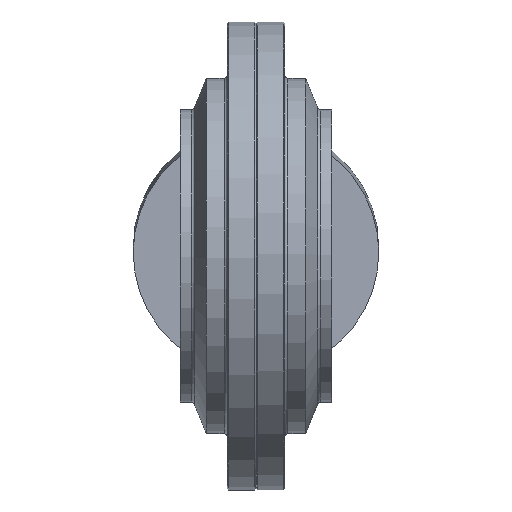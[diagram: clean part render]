
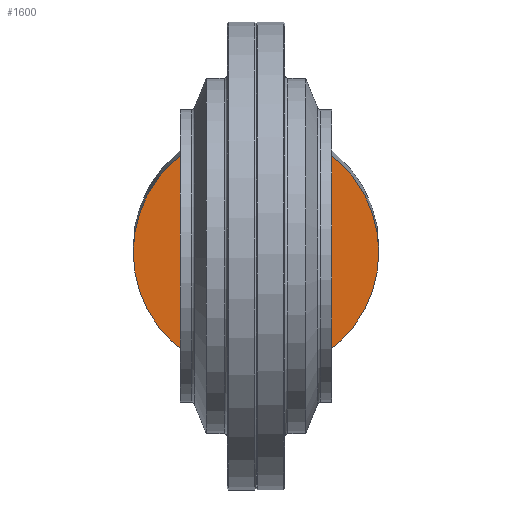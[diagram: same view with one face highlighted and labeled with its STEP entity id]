
A CAD part, front view. The second image highlights one B-rep face of the part: STEP entity #1600.
In plain terms, the highlighted planar face has unit normal (0, -1, -0.01) as drawn and (0, 0, 1) by its records, which use the part's own axes.
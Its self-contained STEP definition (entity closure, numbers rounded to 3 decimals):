
#670=CARTESIAN_POINT('',(-28.306,-212.914,
-44.596));
#680=DIRECTION('',(0.,0.,1.));
#690=DIRECTION('',(1.,0.,0.));
#700=AXIS2_PLACEMENT_3D('',#670,#680,#690);
#710=PLANE('',#700);
#720=CARTESIAN_POINT('',(-28.306,-236.914,
-44.596));
#730=DIRECTION('',(1.,0.,0.));
#740=VECTOR('',#730,1.);
#750=LINE('',#720,#740);
#760=CARTESIAN_POINT('',(-63.381,-236.914,
-44.596));
#770=VERTEX_POINT('',#760);
#780=CARTESIAN_POINT('',(-60.306,-236.914,
-44.596));
#790=VERTEX_POINT('',#780);
#800=EDGE_CURVE('',#770,#790,#750,.T.);
#810=ORIENTED_EDGE('',*,*,#800,.F.);
#820=CARTESIAN_POINT('',(-28.306,-212.914,
-44.596));
#830=DIRECTION('',(0.,0.,1.));
#840=DIRECTION('',(-1.,0.,0.));
#850=AXIS2_PLACEMENT_3D('',#820,#830,#840);
#860=CIRCLE('',#850,40.);
#870=CARTESIAN_POINT('',(-68.306,-212.914,
-44.596));
#880=VERTEX_POINT('',#870);
#890=EDGE_CURVE('',#880,#790,#860,.T.);
#900=ORIENTED_EDGE('',*,*,#890,.T.);
#910=CARTESIAN_POINT('',(-60.306,-188.914,
-44.596));
#920=VERTEX_POINT('',#910);
#930=EDGE_CURVE('',#920,#880,#860,.T.);
#940=ORIENTED_EDGE('',*,*,#930,.T.);
#950=CARTESIAN_POINT('',(-28.306,-188.914,
-44.596));
#960=DIRECTION('',(-1.,0.,0.));
#970=VECTOR('',#960,1.);
#980=LINE('',#950,#970);
#990=CARTESIAN_POINT('',(-63.381,-188.914,
-44.596));
#1000=VERTEX_POINT('',#990);
#1010=EDGE_CURVE('',#920,#1000,#980,.T.);
#1020=ORIENTED_EDGE('',*,*,#1010,.F.);
#1030=CARTESIAN_POINT('',(-28.306,-212.914,
-44.596));
#1040=DIRECTION('',(0.,0.,1.));
#1050=DIRECTION('',(1.,0.,0.));
#1060=AXIS2_PLACEMENT_3D('',#1030,#1040,#1050);
#1070=CIRCLE('',#1060,42.5);
#1080=CARTESIAN_POINT('',(6.769,-188.914,
-44.596));
#1090=VERTEX_POINT('',#1080);
#1100=EDGE_CURVE('',#1090,#1000,#1070,.T.);
#1110=ORIENTED_EDGE('',*,*,#1100,.T.);
#1120=CARTESIAN_POINT('',(-28.306,-188.914,
-44.596));
#1130=DIRECTION('',(-1.,0.,0.));
#1140=VECTOR('',#1130,1.);
#1150=LINE('',#1120,#1140);
#1160=CARTESIAN_POINT('',(3.694,-188.914,
-44.596));
#1170=VERTEX_POINT('',#1160);
#1180=EDGE_CURVE('',#1090,#1170,#1150,.T.);
#1190=ORIENTED_EDGE('',*,*,#1180,.F.);
#1200=CARTESIAN_POINT('',(-28.306,-212.914,
-44.596));
#1210=DIRECTION('',(0.,0.,1.));
#1220=DIRECTION('',(1.,0.,0.));
#1230=AXIS2_PLACEMENT_3D('',#1200,#1210,#1220);
#1240=CIRCLE('',#1230,40.);
#1250=CARTESIAN_POINT('',(11.694,-212.914,
-44.596));
#1260=VERTEX_POINT('',#1250);
#1270=EDGE_CURVE('',#1260,#1170,#1240,.T.);
#1280=ORIENTED_EDGE('',*,*,#1270,.T.);
#1290=CARTESIAN_POINT('',(3.694,-236.914,
-44.596));
#1300=VERTEX_POINT('',#1290);
#1310=EDGE_CURVE('',#1300,#1260,#1240,.T.);
#1320=ORIENTED_EDGE('',*,*,#1310,.T.);
#1330=CARTESIAN_POINT('',(-28.306,-236.914,
-44.596));
#1340=DIRECTION('',(1.,0.,0.));
#1350=VECTOR('',#1340,1.);
#1360=LINE('',#1330,#1350);
#1370=CARTESIAN_POINT('',(6.769,-236.914,
-44.596));
#1380=VERTEX_POINT('',#1370);
#1390=EDGE_CURVE('',#1300,#1380,#1360,.T.);
#1400=ORIENTED_EDGE('',*,*,#1390,.F.);
#1410=EDGE_CURVE('',#770,#1380,#1070,.T.);
#1420=ORIENTED_EDGE('',*,*,#1410,.T.);
#1430=EDGE_LOOP('',(#1420,#1400,#1320,#1280,#1190,#1110,#1020,#940,#900,
#810));
#1440=FACE_OUTER_BOUND('',#1430,.T.);
#1450=CARTESIAN_POINT('',(-28.306,-212.914,
-44.596));
#1460=DIRECTION('',(0.,0.,1.));
#1470=DIRECTION('',(0.,-1.,0.));
#1480=AXIS2_PLACEMENT_3D('',#1450,#1460,#1470);
#1490=CIRCLE('',#1480,10.);
#1500=CARTESIAN_POINT('',(-28.306,-222.914,
-44.596));
#1510=VERTEX_POINT('',#1500);
#1520=CARTESIAN_POINT('',(-28.306,-202.914,
-44.596));
#1530=VERTEX_POINT('',#1520);
#1540=EDGE_CURVE('',#1510,#1530,#1490,.T.);
#1550=ORIENTED_EDGE('',*,*,#1540,.F.);
#1560=EDGE_CURVE('',#1530,#1510,#1490,.T.);
#1570=ORIENTED_EDGE('',*,*,#1560,.F.);
#1580=EDGE_LOOP('',(#1570,#1550));
#1590=FACE_BOUND('',#1580,.T.);
#1600=ADVANCED_FACE('',(#1440,#1590),#710,.T.);
